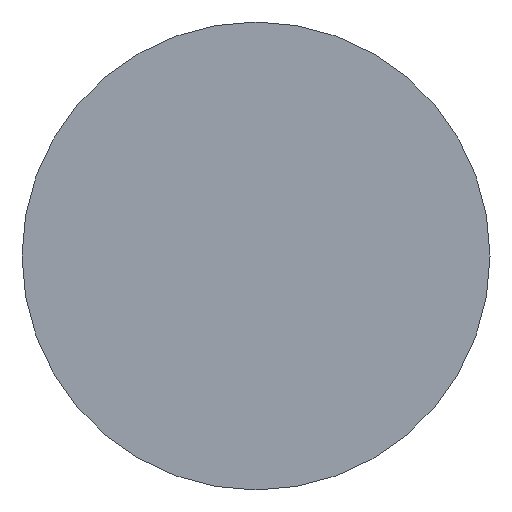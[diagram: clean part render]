
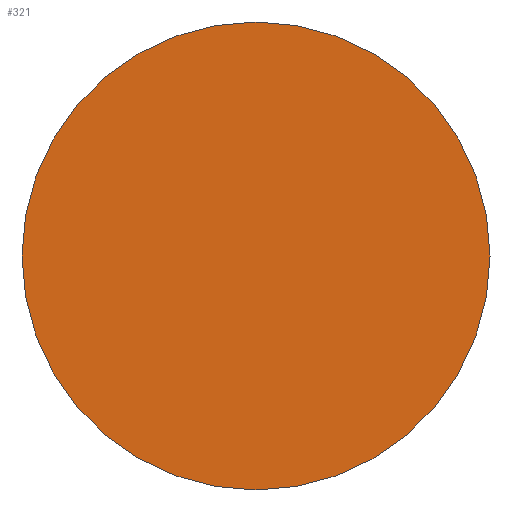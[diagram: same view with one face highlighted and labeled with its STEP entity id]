
A CAD part, front view. The second image highlights one B-rep face of the part: STEP entity #321.
In plain terms, the highlighted planar face has unit normal (0, -1, 0).
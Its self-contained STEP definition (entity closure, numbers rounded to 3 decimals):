
#67 = VERTEX_POINT ( 'NONE', #1233 ) ;
#135 = DIRECTION ( 'NONE',  ( 0., 0., 1. ) ) ;
#321 = ADVANCED_FACE ( 'NONE', ( #1001 ), #893, .F. ) ;
#354 = DIRECTION ( 'NONE',  ( 0., 0., 1. ) ) ;
#393 = AXIS2_PLACEMENT_3D ( 'NONE', #447, #437, #354 ) ;
#437 = DIRECTION ( 'NONE',  ( 0., 1., 0. ) ) ;
#447 = CARTESIAN_POINT ( 'NONE',  ( 0., 0., 0. ) ) ;
#468 = EDGE_CURVE ( 'NONE', #560, #67, #492, .T. ) ;
#492 = CIRCLE ( 'NONE', #771, 100. ) ;
#513 = DIRECTION ( 'NONE',  ( 0., 1., 0. ) ) ;
#560 = VERTEX_POINT ( 'NONE', #716 ) ;
#629 = CIRCLE ( 'NONE', #1030, 100. ) ;
#651 = CARTESIAN_POINT ( 'NONE',  ( 0., 0., 0. ) ) ;
#716 = CARTESIAN_POINT ( 'NONE',  ( 0., 0., 100. ) ) ;
#745 = EDGE_LOOP ( 'NONE', ( #1042, #1216 ) ) ;
#747 = DIRECTION ( 'NONE',  ( 0., 0., 1. ) ) ;
#771 = AXIS2_PLACEMENT_3D ( 'NONE', #651, #904, #747 ) ;
#797 = EDGE_CURVE ( 'NONE', #67, #560, #629, .T. ) ;
#893 = PLANE ( 'NONE',  #393 ) ;
#904 = DIRECTION ( 'NONE',  ( 0., 1., 0. ) ) ;
#1001 = FACE_OUTER_BOUND ( 'NONE', #745, .T. ) ;
#1030 = AXIS2_PLACEMENT_3D ( 'NONE', #1086, #513, #135 ) ;
#1042 = ORIENTED_EDGE ( 'NONE', *, *, #797, .F. ) ;
#1086 = CARTESIAN_POINT ( 'NONE',  ( 0., 0., 0. ) ) ;
#1216 = ORIENTED_EDGE ( 'NONE', *, *, #468, .F. ) ;
#1233 = CARTESIAN_POINT ( 'NONE',  ( 0., 0., -100. ) ) ;
